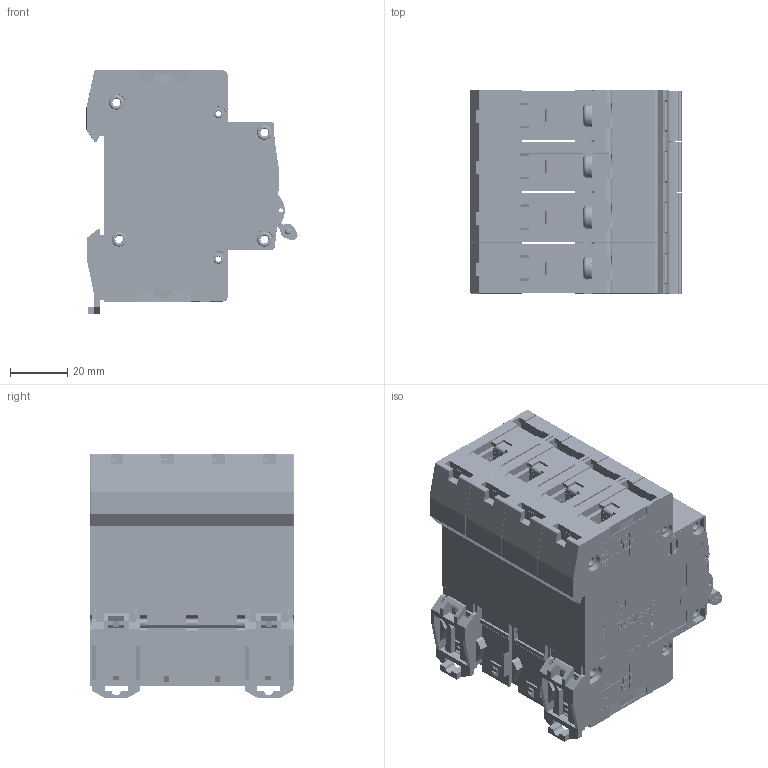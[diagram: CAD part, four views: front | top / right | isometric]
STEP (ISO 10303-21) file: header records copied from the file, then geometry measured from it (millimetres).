
FILE_DESCRIPTION (( 'STEP AP214' ), '1' );
FILE_NAME ('TDZ-4B-16.STEP', '2026-04-30T13:13:13', ( '' ), ( '' ), 'SwSTEP 2.0', 'SolidWorks 2025', '' );
FILE_SCHEMA (( 'AUTOMOTIVE_DESIGN' ));
Length unit declared in the file: millimetre
Products named in the file (1): TDZ-4B-16
Bounding box: 73.85 x 71.2 x 85.3 mm (x, y, z)
Volume: 118554.1 mm3; surface area: 187896.2 mm2
Topology: 56 solids, 56 shells, 15656 faces, 44153 edges, 29301 vertices
Faces by surface type: plane 9849, cylinder 3615, bspline 1650, torus 356, cone 186
Entity records: 791826 total; most frequent: CARTESIAN_POINT 230925, ORIENTED_EDGE 88210, DIRECTION 73914, EDGE_CURVE 44105, LINE 31026, VECTOR 31026, VERTEX_POINT 29301, AXIS2_PLACEMENT_3D 21444
